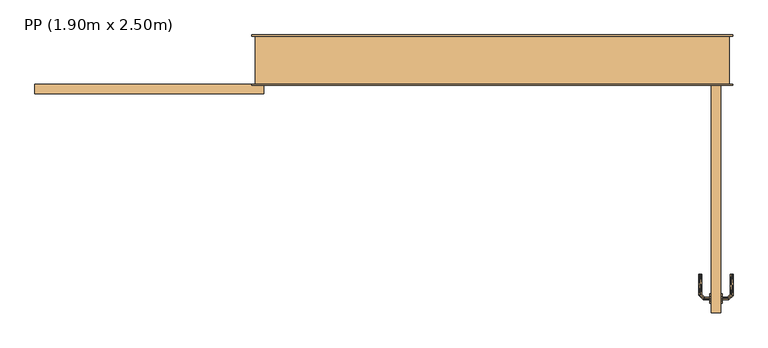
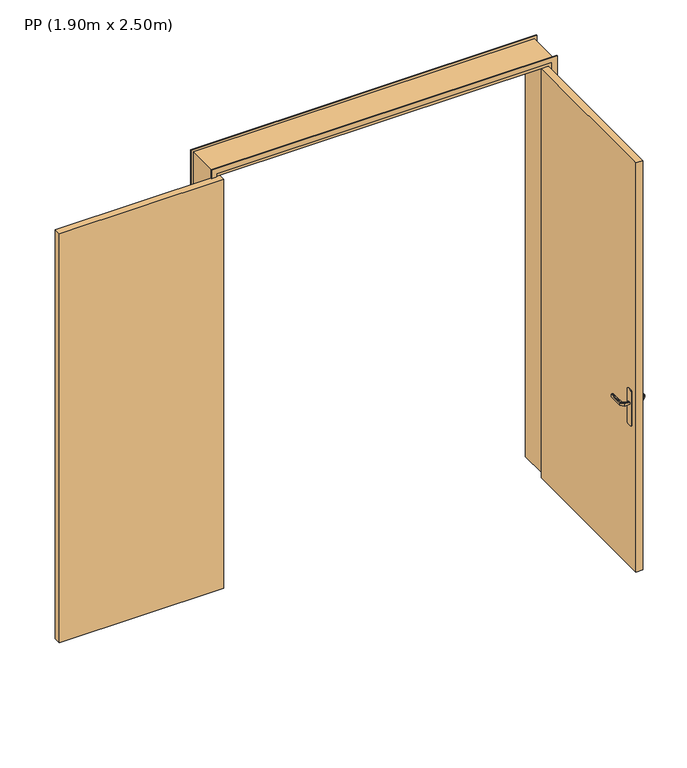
"""IFC4 building model written with IfcOpenShell, lengths in millimetres: door geometry, PP (1.90m x 2.50m)."""

import ifcopenshell
import ifcopenshell.guid

model = None  # the IFC model being written
_history = None  # IfcOwnerHistory: only IFC2X3 demands one
_inside = {}  # id of a spatial element -> (the spatial element, [elements in it])
_under = {}  # id of a project, library or spatial element -> (it, [spatial elements below it])
_declared = {}  # id of a project -> (the project, [libraries it declares])
_typed = {}  # id of a type object -> (the type object, [elements of that type])
_made_of = {}  # id of a material, layer set ... -> (it, [elements and type objects made of it])


def new_model(schema):
    """Start an empty IFC model of exactly this schema.

    Asked for "IFC4X3", IfcOpenShell would pick the latest addendum, in which some entities
    have other attributes; the version numbers below select the first issue.
    IFC2X3 requires an IfcOwnerHistory on every rooted entity: one is made here for all.
    """
    global model, _history
    if schema == "IFC4X3":
        model = ifcopenshell.file(schema_version=(4, 3, 0, 0))
    else:
        model = ifcopenshell.file(schema=schema)
    _inside.clear()
    _under.clear()
    _declared.clear()
    _typed.clear()
    _made_of.clear()
    _history = None
    if model.schema == "IFC2X3":
        org = make("IfcOrganization", Name="unknown")
        user = make(
            "IfcPersonAndOrganization",
            ThePerson=make("IfcPerson", FamilyName="unknown"),
            TheOrganization=org,
        )
        app = make(
            "IfcApplication",
            ApplicationDeveloper=org,
            Version="unknown",
            ApplicationFullName="unknown",
            ApplicationIdentifier="unknown",
        )
        _history = make(
            "IfcOwnerHistory",
            OwningUser=user,
            OwningApplication=app,
            ChangeAction="ADDED",
            CreationDate=0,
        )
    return model


def make(cls, **values):
    """One entity of the class cls with the attributes given. An attribute that is None is left unset."""
    return model.create_entity(
        cls, **{name: value for name, value in values.items() if value is not None}
    )


def rooted(cls, **values):
    """An entity with a GlobalId (a new one), such as an element, a storey or a relation."""
    return make(cls, GlobalId=ifcopenshell.guid.new(), OwnerHistory=_history, **values)


def si_unit(unit_type, name, prefix=None):
    """IfcSIUnit, for example si_unit("LENGTHUNIT", "METRE", prefix="MILLI")."""
    return make("IfcSIUnit", UnitType=unit_type, Prefix=prefix, Name=name)


def assignment(units):
    """IfcUnitAssignment: the units of a project."""
    return None if units is None else make("IfcUnitAssignment", Units=units)


def point(xyz):
    """IfcCartesianPoint."""
    return None if xyz is None else make("IfcCartesianPoint", Coordinates=xyz)


def direction(xyz):
    """IfcDirection."""
    return None if xyz is None else make("IfcDirection", DirectionRatios=xyz)


def frame(location, z_axis=None, x_axis=None):
    """IfcAxis2Placement3D, a coordinate frame: its origin and axes. An axis left out is left unset."""
    return make(
        "IfcAxis2Placement3D",
        Location=point(location),
        Axis=direction(z_axis),
        RefDirection=direction(x_axis),
    )


def origin():
    """The frame at (0, 0, 0) with its axes left unset."""
    return frame((0.0, 0.0, 0.0))


def origin_with_axes():
    """The frame at (0, 0, 0) with the z axis (0, 0, 1) and the x axis (1, 0, 0) written out."""
    return frame((0.0, 0.0, 0.0), z_axis=(0.0, 0.0, 1.0), x_axis=(1.0, 0.0, 0.0))


def place(relative_to, where):
    """IfcLocalPlacement: puts the frame where relative to a parent placement (None: the world)."""
    return make(
        "IfcLocalPlacement", PlacementRelTo=relative_to, RelativePlacement=where
    )


def context(
    kind, dimensions, precision=None, world=None, true_north=None, identifier=None
):
    """IfcGeometricRepresentationContext, for example the 3D "Model" context."""
    return make(
        "IfcGeometricRepresentationContext",
        ContextIdentifier=identifier,
        ContextType=kind,
        CoordinateSpaceDimension=dimensions,
        Precision=precision,
        WorldCoordinateSystem=world,
        TrueNorth=true_north,
    )


def project(units=None, contexts=None):
    """IfcProject with its units and contexts."""
    return rooted(
        "IfcProject",
        Name="project",
        RepresentationContexts=contexts,
        UnitsInContext=assignment(units),
    )


def spatial(cls, under=None, at=None, **own):
    """A site, building, storey or space (cls), placed at a placement, below another one or the project."""
    s = rooted(cls, ObjectPlacement=at, **own)
    if under is not None:
        _under.setdefault(under.id(), (under, []))[1].append(s)
    return s


def polyline(points):
    """IfcPolyline through the points."""
    return make("IfcPolyline", Points=[point(p) for p in points])


def outline(outer, holes=None, kind="AREA"):
    """IfcArbitraryClosedProfileDef: a profile drawn as a closed curve; with holes, ...WithVoids."""
    if holes is None:
        return make("IfcArbitraryClosedProfileDef", ProfileType=kind, OuterCurve=outer)
    return make(
        "IfcArbitraryProfileDefWithVoids",
        ProfileType=kind,
        OuterCurve=outer,
        InnerCurves=holes,
    )


def extrude(swept, where, along, depth):
    """IfcExtrudedAreaSolid: the profile swept, set in the frame where, extruded along a direction by depth."""
    return make(
        "IfcExtrudedAreaSolid",
        SweptArea=swept,
        Position=where,
        ExtrudedDirection=direction(along),
        Depth=depth,
    )


def faces_of(points, faces, orient=None, outer=None):
    """IfcFace entities. A face is a list of loops; a loop is a list of indices into points, from 0.

    orient and outer hold one flag for each loop. By default every Orientation is true, the
    first loop of a face is its IfcFaceOuterBound and the others are IfcFaceBound.
    """
    made = []
    for i, loops in enumerate(faces):
        bounds = []
        for j, loop in enumerate(loops):
            is_outer = j == 0 if outer is None else outer[i][j]
            bounds.append(
                make(
                    "IfcFaceOuterBound" if is_outer else "IfcFaceBound",
                    Bound=make("IfcPolyLoop", Polygon=[points[k] for k in loop]),
                    Orientation=True if orient is None else orient[i][j],
                )
            )
        made.append(make("IfcFace", Bounds=bounds))
    return made


def faceted_brep(points, faces, orient=None, outer=None, voids=None):
    """IfcFacetedBrep: a solid bounded by flat faces; with voids (closed shells), ...WithVoids."""
    shared = [point(p) for p in points]
    hull = make("IfcClosedShell", CfsFaces=faces_of(shared, faces, orient, outer))
    if voids is None:
        return make("IfcFacetedBrep", Outer=hull)
    return make(
        "IfcFacetedBrepWithVoids",
        Outer=hull,
        Voids=[
            make(cls, CfsFaces=faces_of(shared, fs, o, b)) for cls, fs, o, b in voids
        ],
    )


def shape(context_of_items, identifier, shape_type, items):
    """IfcShapeRepresentation: the items that make up one representation, for example the "Body"."""
    return make(
        "IfcShapeRepresentation",
        ContextOfItems=context_of_items,
        RepresentationIdentifier=identifier,
        RepresentationType=shape_type,
        Items=items,
    )


def source(mapping_origin, context_of_items, identifier, shape_type, items):
    """IfcRepresentationMap: a shape defined once, which mapped items show again and again."""
    return make(
        "IfcRepresentationMap",
        MappingOrigin=mapping_origin,
        MappedRepresentation=shape(context_of_items, identifier, shape_type, items),
    )


def transform(
    local_origin,
    x_axis=None,
    y_axis=None,
    z_axis=None,
    scale=None,
    scale2=None,
    scale3=None,
    uniform=True,
):
    """IfcCartesianTransformationOperator3D, or its non-uniform kind. x_axis, y_axis, z_axis: its Axis1, 2, 3."""
    if uniform:
        return make(
            "IfcCartesianTransformationOperator3D",
            Axis1=direction(x_axis),
            Axis2=direction(y_axis),
            LocalOrigin=point(local_origin),
            Scale=scale,
            Axis3=direction(z_axis),
        )
    return make(
        "IfcCartesianTransformationOperator3DnonUniform",
        Axis1=direction(x_axis),
        Axis2=direction(y_axis),
        LocalOrigin=point(local_origin),
        Scale=scale,
        Axis3=direction(z_axis),
        Scale2=scale2,
        Scale3=scale3,
    )


def mapped(mapping_source, mapping_target):
    """IfcMappedItem: shows the shape of a source again, moved by a transform."""
    return make(
        "IfcMappedItem", MappingSource=mapping_source, MappingTarget=mapping_target
    )


def made_of(thing, what):
    """Note that an element or type object is made of a material, layer set ...; save() writes the relation."""
    if what is not None:
        _made_of.setdefault(what.id(), (what, []))[1].append(thing)
    return thing


def element(
    cls,
    number,
    at=None,
    inside=None,
    cuts=None,
    type_object=None,
    material=None,
    context=None,
    identifier="Body",
    shape_type=None,
    held_by="IfcProductDefinitionShape",
    body=None,
    shapes=None,
    **own,
):
    """One element of the class cls, such as IfcWall. Its Tag is "e" and its number.

    at: its placement. inside: the storey or other place that contains it. cuts: it is an
    opening in that element (IfcRelVoidsElement). A single representation is given by context,
    identifier, shape_type and body (its items); several are given by shapes. held_by: the class
    of the entity that holds the representations. save() writes the other relations.
    """
    e = rooted(cls, Tag="e%d" % number, ObjectPlacement=at, **own)
    if body is not None:
        shapes = [shape(context, identifier, shape_type, body)]
    if shapes is not None:
        e.Representation = make(held_by, Representations=shapes)
    if inside is not None:
        _inside.setdefault(inside.id(), (inside, []))[1].append(e)
    if cuts is not None:
        rooted(
            "IfcRelVoidsElement", RelatingBuildingElement=cuts, RelatedOpeningElement=e
        )
    if type_object is not None:
        _typed.setdefault(type_object.id(), (type_object, []))[1].append(e)
    return made_of(e, material)


def aggregate(whole, parts):
    """IfcRelAggregates: a whole, such as a stair, and the parts it consists of."""
    return rooted("IfcRelAggregates", RelatingObject=whole, RelatedObjects=parts)


def save(model, path):
    """Write the relations noted so far, then the file.

    IfcRelAggregates (storeys below a building ...), IfcRelContainedInSpatialStructure (elements
    in a storey), IfcRelDefinesByType, IfcRelAssociatesMaterial and IfcRelDeclares: one each for
    every whole, place, type object, material and project.
    """
    for whole, parts in _under.values():
        aggregate(whole, parts)
    for where, things in _inside.values():
        rooted(
            "IfcRelContainedInSpatialStructure",
            RelatedElements=things,
            RelatingStructure=where,
        )
    for kind, things in _typed.values():
        rooted("IfcRelDefinesByType", RelatedObjects=things, RelatingType=kind)
    for what, things in _made_of.values():
        rooted("IfcRelAssociatesMaterial", RelatedObjects=things, RelatingMaterial=what)
    for by, libraries in _declared.values():
        rooted("IfcRelDeclares", RelatingContext=by, RelatedDefinitions=libraries)
    model.write(path)


def pp_1_90m_x_2_50m_f70b7fbe(model_context):
    return source(origin(), model_context, "Body", "SolidModel", [
        extrude(outline(polyline([(1895.0, -950.0), (1895.0, 0.0), (1935.0, 0.0), (1935.0, -950.0), (1895.0, -950.0)])), origin_with_axes(), (0.0, 0.0, 1.0), 2500.0),
        extrude(outline(polyline([(0.0, -15.0), (0.0, 15.0), (2520.0, 15.0), (2520.0, 1955.0), (0.0, 1955.0), (0.0, 1985.0), (2550.0, 1985.0), (2550.0, -15.0), (0.0, -15.0)])), frame((0.0, -5.0, 0.0), z_axis=(0.0, 1.0, 0.0), x_axis=(0.0, 0.0, 1.0)), (0.0, 0.0, 1.0), 5.0),
        faceted_brep([(1890.0, -892.0252987, 1007.7804408), (1890.0, -896.0, 1007.0), (1890.0, -896.0, 993.0), (1890.0, -892.0252987, 992.2195592), (1890.0, -887.9747013, 992.2195592), (1890.0, -884.0, 993.0), (1890.0, -884.0, 1007.0), (1890.0, -887.9747013, 1007.7804408), (1867.5147955, -884.0, 993.0), (1867.5147955, -884.0, 1007.0), (1865.8684203, -887.9747013, 1007.7804408), (1852.0548128, -874.1610938, 1007.7804408), (1848.0042155, -875.8389062, 1007.7804408), (1864.1906079, -892.0252987, 1007.7804408), (1862.5442327, -896.0, 1007.0), (1862.5442327, -896.0, 993.0), (1864.1906079, -892.0252987, 992.2195592), (1848.0042155, -875.8389062, 992.2195592), (1852.0548128, -874.1610938, 992.2195592), (1865.8684203, -887.9747013, 992.2195592), (1856.0295141, -872.5147186, 993.0), (1856.0295141, -872.5147186, 1007.0), (1844.0295141, -877.4852814, 1007.0), (1844.0295141, -877.4852814, 993.0), (1856.0295141, -789.9542163, 993.0), (1852.0548128, -789.9542163, 992.2195592), (1848.0042155, -789.9542163, 992.2195592), (1844.0295141, -789.9542163, 993.0), (1844.0295141, -789.9542163, 1007.0), (1848.0042155, -789.9542163, 1007.7804408), (1852.0548128, -789.9542163, 1007.7804408), (1856.0295141, -789.9542163, 1007.0), (1856.0295141, -831.2344794, 993.0), (1856.0295141, -831.2344675, 1007.0), (1850.0295141, -832.0576551, 1007.8786868), (1844.0295141, -837.5547942, 1007.0), (1844.0295141, -837.5547957, 993.0), (1850.0295142, -832.0576549, 992.1213132)], [[[0, 1, 2, 3, 4, 5, 6, 7]], [[6, 5, 8, 9]], [[9, 10, 7, 6]], [[10, 11, 12, 13, 0, 7]], [[13, 14, 1, 0]], [[2, 1, 14, 15]], [[15, 16, 3, 2]], [[16, 17, 18, 19, 4, 3]], [[19, 8, 5, 4]], [[9, 8, 20, 21]], [[21, 11, 10, 9]], [[12, 22, 14, 13]], [[15, 14, 22, 23]], [[23, 17, 16, 15]], [[18, 20, 8, 19]], [[24, 25, 26, 27, 28, 29, 30, 31]], [[21, 20, 32, 24, 31, 33]], [[33, 30, 34]], [[35, 34, 29]], [[21, 33, 11]], [[33, 31, 30]], [[28, 35, 29]], [[22, 12, 35]], [[35, 12, 34]], [[12, 11, 34]], [[11, 33, 34]], [[29, 34, 30]], [[22, 35, 28, 27, 36, 23]], [[36, 26, 37]], [[27, 26, 36]], [[17, 23, 36]], [[37, 32, 18]], [[20, 18, 32]], [[32, 25, 24]], [[26, 25, 37]], [[25, 32, 37]], [[17, 36, 37]], [[17, 37, 18]]]),
        faceted_brep([(1940.0, -892.0252987, 1007.7804408), (1940.0, -887.9747013, 1007.7804408), (1940.0, -884.0, 1007.0), (1940.0, -884.0, 993.0), (1940.0, -887.9747013, 992.2195592), (1940.0, -892.0252987, 992.2195592), (1940.0, -896.0, 993.0), (1940.0, -896.0, 1007.0), (1967.6509507, -896.0, 1007.0), (1966.0045755, -892.0252987, 1007.7804408), (1982.0534593, -875.9764148, 1007.7804408), (1978.002862, -874.2986025, 1007.7804408), (1964.3267632, -887.9747013, 1007.7804408), (1962.680388, -884.0, 1007.0), (1962.680388, -884.0, 993.0), (1964.3267632, -887.9747013, 992.2195592), (1978.002862, -874.2986025, 992.2195592), (1982.0534593, -875.9764148, 992.2195592), (1966.0045755, -892.0252987, 992.2195592), (1967.6509507, -896.0, 993.0), (1986.0281607, -877.62279, 1007.0), (1974.0281607, -872.6522273, 1007.0), (1974.0281607, -872.6522273, 993.0), (1986.0281607, -877.62279, 993.0), (1986.0281607, -789.9813594, 993.0), (1982.0534593, -789.9813594, 992.2195592), (1978.002862, -789.9813594, 992.2195592), (1974.0281607, -789.9813594, 993.0), (1974.0281607, -789.9813594, 1007.0), (1978.002862, -789.9813594, 1007.7804408), (1982.0534593, -789.9813594, 1007.7804408), (1986.0281607, -789.9813594, 1007.0), (1986.0281607, -837.6923028, 1007.0), (1980.0281607, -832.1399809, 1007.8786868), (1974.0281607, -831.3167933, 1007.0), (1974.0281607, -831.3167933, 993.0), (1980.0281608, -832.1399811, 992.1213132), (1986.0281607, -837.6922998, 993.0)], [[[0, 1, 2, 3, 4, 5, 6, 7]], [[8, 9, 0, 7]], [[9, 10, 11, 12, 1, 0]], [[12, 13, 2, 1]], [[3, 2, 13, 14]], [[14, 15, 4, 3]], [[15, 16, 17, 18, 5, 4]], [[18, 19, 6, 5]], [[7, 6, 19, 8]], [[20, 10, 9, 8]], [[11, 21, 13, 12]], [[14, 13, 21, 22]], [[22, 16, 15, 14]], [[17, 23, 19, 18]], [[8, 19, 23, 20]], [[24, 25, 26, 27, 28, 29, 30, 31]], [[32, 30, 33]], [[31, 30, 32]], [[10, 20, 32]], [[33, 34, 11]], [[21, 11, 34]], [[34, 29, 28]], [[30, 29, 33]], [[29, 34, 33]], [[10, 32, 33]], [[10, 33, 11]], [[22, 21, 34, 28, 27, 35]], [[35, 26, 36]], [[37, 36, 25]], [[22, 35, 16]], [[35, 27, 26]], [[24, 37, 25]], [[23, 17, 37]], [[37, 17, 36]], [[17, 16, 36]], [[16, 35, 36]], [[25, 36, 26]], [[20, 23, 37, 24, 31, 32]]]),
        faceted_brep([(0.0, 0.0, 0.0), (0.0, 200.0, 0.0), (50.0, 200.0, 0.0), (50.0, 40.0, 0.0), (35.0, 40.0, 0.0), (35.0, 0.0, 0.0), (0.0, 0.0, 2535.0), (0.0, 200.0, 2535.0), (1970.0, 200.0, 2535.0), (1970.0, 200.0, 0.0), (1920.0, 200.0, 0.0), (1920.0, 200.0, 2485.0), (50.0, 200.0, 2485.0), (50.0, 40.0, 2485.0), (1920.0, 40.0, 2485.0), (1920.0, 40.0, 0.0), (1935.0, 40.0, 0.0), (1935.0, 40.0, 2500.0), (35.0, 40.0, 2500.0), (35.0, 0.0, 2500.0), (1935.0, 0.0, 2500.0), (1935.0, 0.0, 0.0), (1970.0, 0.0, 0.0), (1970.0, 0.0, 2535.0)], [[[0, 1, 2, 3, 4, 5]], [[1, 0, 6, 7]], [[2, 1, 7, 8, 9, 10, 11, 12]], [[3, 2, 12, 13]], [[4, 3, 13, 14, 15, 16, 17, 18]], [[5, 4, 18, 19]], [[0, 5, 19, 20, 21, 22, 23, 6]], [[8, 23, 22, 9]], [[22, 21, 16, 15, 10, 9]], [[14, 11, 10, 15]], [[20, 17, 16, 21]], [[7, 6, 23, 8]], [[13, 12, 11, 14]], [[19, 18, 17, 20]]]),
        extrude(outline(polyline([(0.0, -15.0), (0.0, 15.0), (2520.0, 15.0), (2520.0, 1955.0), (0.0, 1955.0), (0.0, 1985.0), (2550.0, 1985.0), (2550.0, -15.0), (0.0, -15.0)])), frame((0.0, 200.0, 0.0), z_axis=(0.0, 1.0, 0.0), x_axis=(0.0, 0.0, 1.0)), (0.0, 0.0, 1.0), 5.0),
        extrude(outline(polyline([(-879.6472382, 1083.9960169), (-870.0, 1080.0), (-870.0, 870.0), (-879.6472382, 866.0039831), (-890.0, 864.6410162), (-900.3527618, 866.0039831), (-910.0, 870.0), (-910.0, 1080.0), (-900.3527618, 1083.9960169), (-890.0, 1085.3589838), (-879.6472382, 1083.9960169)])), frame((1890.0, 0.0, 0.0), z_axis=(1.0, 0.0, 0.0), x_axis=(0.0, 1.0, 0.0)), (0.0, 0.0, 1.0), 5.0),
        extrude(outline(polyline([(-915.0, -40.0), (-915.0, 0.0), (35.0, 0.0), (35.0, -40.0), (-915.0, -40.0)])), origin_with_axes(), (0.0, 0.0, 1.0), 2500.0),
        extrude(outline(polyline([(-879.6472382, 1083.9960169), (-870.0, 1080.0), (-870.0, 870.0), (-879.6472382, 866.0039831), (-890.0, 864.6410162), (-900.3527618, 866.0039831), (-910.0, 870.0), (-910.0, 1080.0), (-900.3527618, 1083.9960169), (-890.0, 1085.3589838), (-879.6472382, 1083.9960169)])), frame((1935.0, 0.0, 0.0), z_axis=(1.0, 0.0, 0.0), x_axis=(0.0, 1.0, 0.0)), (0.0, 0.0, 1.0), 5.0),
    ])


if __name__ == "__main__":
    model = new_model("IFC4")
    model_context = context("Model", 3, world=origin())
    ifc_project = project(units=[si_unit("LENGTHUNIT", "METRE", prefix="MILLI")], contexts=[model_context])
    site = spatial("IfcSite", under=ifc_project)
    building = spatial("IfcBuilding", under=site)
    placement = place(None, origin())
    pp_1_90m_x_2_50m_shape = pp_1_90m_x_2_50m_f70b7fbe(model_context)
    element("IfcDoor", 1, ObjectType="PP (1.90m x 2.50m)", at=placement, inside=building, context=model_context, shape_type="MappedRepresentation", body=[
        mapped(pp_1_90m_x_2_50m_shape, transform((0.0, 0.0, 0.0), x_axis=(1.0, 0.0, 0.0), y_axis=(0.0, 1.0, 0.0), z_axis=(0.0, 0.0, 1.0))),
    ])
    save(model, "model.ifc")
